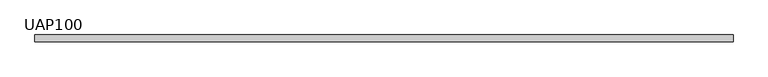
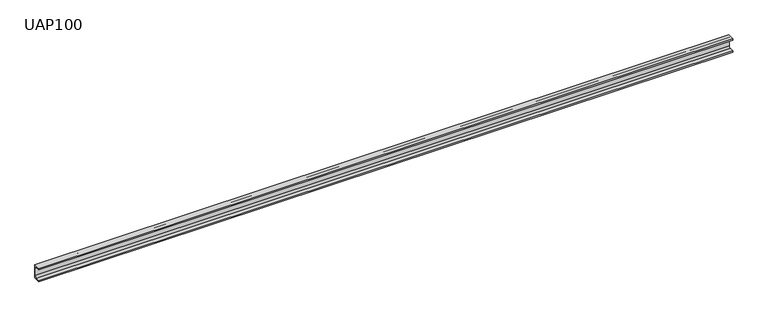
"""IFC4 building model written with IfcOpenShell, lengths in millimetres: beam geometry, U-Fers a ailes parallèles : UAP100."""

import ifcopenshell
import ifcopenshell.guid

model = None  # the IFC model being written
_history = None  # IfcOwnerHistory: only IFC2X3 demands one
_inside = {}  # id of a spatial element -> (the spatial element, [elements in it])
_under = {}  # id of a project, library or spatial element -> (it, [spatial elements below it])
_declared = {}  # id of a project -> (the project, [libraries it declares])
_typed = {}  # id of a type object -> (the type object, [elements of that type])
_made_of = {}  # id of a material, layer set ... -> (it, [elements and type objects made of it])


def new_model(schema):
    """Start an empty IFC model of exactly this schema.

    Asked for "IFC4X3", IfcOpenShell would pick the latest addendum, in which some entities
    have other attributes; the version numbers below select the first issue.
    IFC2X3 requires an IfcOwnerHistory on every rooted entity: one is made here for all.
    """
    global model, _history
    if schema == "IFC4X3":
        model = ifcopenshell.file(schema_version=(4, 3, 0, 0))
    else:
        model = ifcopenshell.file(schema=schema)
    _inside.clear()
    _under.clear()
    _declared.clear()
    _typed.clear()
    _made_of.clear()
    _history = None
    if model.schema == "IFC2X3":
        org = make("IfcOrganization", Name="unknown")
        user = make(
            "IfcPersonAndOrganization",
            ThePerson=make("IfcPerson", FamilyName="unknown"),
            TheOrganization=org,
        )
        app = make(
            "IfcApplication",
            ApplicationDeveloper=org,
            Version="unknown",
            ApplicationFullName="unknown",
            ApplicationIdentifier="unknown",
        )
        _history = make(
            "IfcOwnerHistory",
            OwningUser=user,
            OwningApplication=app,
            ChangeAction="ADDED",
            CreationDate=0,
        )
    return model


def make(cls, **values):
    """One entity of the class cls with the attributes given. An attribute that is None is left unset."""
    return model.create_entity(
        cls, **{name: value for name, value in values.items() if value is not None}
    )


def rooted(cls, **values):
    """An entity with a GlobalId (a new one), such as an element, a storey or a relation."""
    return make(cls, GlobalId=ifcopenshell.guid.new(), OwnerHistory=_history, **values)


def si_unit(unit_type, name, prefix=None):
    """IfcSIUnit, for example si_unit("LENGTHUNIT", "METRE", prefix="MILLI")."""
    return make("IfcSIUnit", UnitType=unit_type, Prefix=prefix, Name=name)


def assignment(units):
    """IfcUnitAssignment: the units of a project."""
    return None if units is None else make("IfcUnitAssignment", Units=units)


def point(xyz):
    """IfcCartesianPoint."""
    return None if xyz is None else make("IfcCartesianPoint", Coordinates=xyz)


def direction(xyz):
    """IfcDirection."""
    return None if xyz is None else make("IfcDirection", DirectionRatios=xyz)


def frame(location, z_axis=None, x_axis=None):
    """IfcAxis2Placement3D, a coordinate frame: its origin and axes. An axis left out is left unset."""
    return make(
        "IfcAxis2Placement3D",
        Location=point(location),
        Axis=direction(z_axis),
        RefDirection=direction(x_axis),
    )


def frame_2d(location, x_axis=None):
    """IfcAxis2Placement2D, a coordinate frame in the plane: its origin and x axis."""
    return make(
        "IfcAxis2Placement2D", Location=point(location), RefDirection=direction(x_axis)
    )


def origin():
    """The frame at (0, 0, 0) with its axes left unset."""
    return frame((0.0, 0.0, 0.0))


def place(relative_to, where):
    """IfcLocalPlacement: puts the frame where relative to a parent placement (None: the world)."""
    return make(
        "IfcLocalPlacement", PlacementRelTo=relative_to, RelativePlacement=where
    )


def context(
    kind, dimensions, precision=None, world=None, true_north=None, identifier=None
):
    """IfcGeometricRepresentationContext, for example the 3D "Model" context."""
    return make(
        "IfcGeometricRepresentationContext",
        ContextIdentifier=identifier,
        ContextType=kind,
        CoordinateSpaceDimension=dimensions,
        Precision=precision,
        WorldCoordinateSystem=world,
        TrueNorth=true_north,
    )


def project(units=None, contexts=None):
    """IfcProject with its units and contexts."""
    return rooted(
        "IfcProject",
        Name="project",
        RepresentationContexts=contexts,
        UnitsInContext=assignment(units),
    )


def spatial(cls, under=None, at=None, **own):
    """A site, building, storey or space (cls), placed at a placement, below another one or the project."""
    s = rooted(cls, ObjectPlacement=at, **own)
    if under is not None:
        _under.setdefault(under.id(), (under, []))[1].append(s)
    return s


def polyline(points):
    """IfcPolyline through the points."""
    return make("IfcPolyline", Points=[point(p) for p in points])


def circle_curve(where, radius):
    """IfcCircle in the frame where."""
    return make("IfcCircle", Position=where, Radius=radius)


def trimmed(basis, trim1, trim2, sense, master):
    """IfcTrimmedCurve: the piece of a basis curve between two trims."""
    return make(
        "IfcTrimmedCurve",
        BasisCurve=basis,
        Trim1=trim1,
        Trim2=trim2,
        SenseAgreement=sense,
        MasterRepresentation=master,
    )


def segment(curve, same_sense, transition):
    """IfcCompositeCurveSegment."""
    return make(
        "IfcCompositeCurveSegment",
        Transition=transition,
        SameSense=same_sense,
        ParentCurve=curve,
    )


def composite_curve(segments, self_intersect=None):
    """IfcCompositeCurve: segments joined end to end."""
    return make("IfcCompositeCurve", Segments=segments, SelfIntersect=self_intersect)


def outline(outer, holes=None, kind="AREA"):
    """IfcArbitraryClosedProfileDef: a profile drawn as a closed curve; with holes, ...WithVoids."""
    if holes is None:
        return make("IfcArbitraryClosedProfileDef", ProfileType=kind, OuterCurve=outer)
    return make(
        "IfcArbitraryProfileDefWithVoids",
        ProfileType=kind,
        OuterCurve=outer,
        InnerCurves=holes,
    )


def extrude(swept, where, along, depth):
    """IfcExtrudedAreaSolid: the profile swept, set in the frame where, extruded along a direction by depth."""
    return make(
        "IfcExtrudedAreaSolid",
        SweptArea=swept,
        Position=where,
        ExtrudedDirection=direction(along),
        Depth=depth,
    )


def shape(context_of_items, identifier, shape_type, items):
    """IfcShapeRepresentation: the items that make up one representation, for example the "Body"."""
    return make(
        "IfcShapeRepresentation",
        ContextOfItems=context_of_items,
        RepresentationIdentifier=identifier,
        RepresentationType=shape_type,
        Items=items,
    )


def source(mapping_origin, context_of_items, identifier, shape_type, items):
    """IfcRepresentationMap: a shape defined once, which mapped items show again and again."""
    return make(
        "IfcRepresentationMap",
        MappingOrigin=mapping_origin,
        MappedRepresentation=shape(context_of_items, identifier, shape_type, items),
    )


def transform(
    local_origin,
    x_axis=None,
    y_axis=None,
    z_axis=None,
    scale=None,
    scale2=None,
    scale3=None,
    uniform=True,
):
    """IfcCartesianTransformationOperator3D, or its non-uniform kind. x_axis, y_axis, z_axis: its Axis1, 2, 3."""
    if uniform:
        return make(
            "IfcCartesianTransformationOperator3D",
            Axis1=direction(x_axis),
            Axis2=direction(y_axis),
            LocalOrigin=point(local_origin),
            Scale=scale,
            Axis3=direction(z_axis),
        )
    return make(
        "IfcCartesianTransformationOperator3DnonUniform",
        Axis1=direction(x_axis),
        Axis2=direction(y_axis),
        LocalOrigin=point(local_origin),
        Scale=scale,
        Axis3=direction(z_axis),
        Scale2=scale2,
        Scale3=scale3,
    )


def mapped(mapping_source, mapping_target):
    """IfcMappedItem: shows the shape of a source again, moved by a transform."""
    return make(
        "IfcMappedItem", MappingSource=mapping_source, MappingTarget=mapping_target
    )


def made_of(thing, what):
    """Note that an element or type object is made of a material, layer set ...; save() writes the relation."""
    if what is not None:
        _made_of.setdefault(what.id(), (what, []))[1].append(thing)
    return thing


def element(
    cls,
    number,
    at=None,
    inside=None,
    cuts=None,
    type_object=None,
    material=None,
    context=None,
    identifier="Body",
    shape_type=None,
    held_by="IfcProductDefinitionShape",
    body=None,
    shapes=None,
    **own,
):
    """One element of the class cls, such as IfcWall. Its Tag is "e" and its number.

    at: its placement. inside: the storey or other place that contains it. cuts: it is an
    opening in that element (IfcRelVoidsElement). A single representation is given by context,
    identifier, shape_type and body (its items); several are given by shapes. held_by: the class
    of the entity that holds the representations. save() writes the other relations.
    """
    e = rooted(cls, Tag="e%d" % number, ObjectPlacement=at, **own)
    if body is not None:
        shapes = [shape(context, identifier, shape_type, body)]
    if shapes is not None:
        e.Representation = make(held_by, Representations=shapes)
    if inside is not None:
        _inside.setdefault(inside.id(), (inside, []))[1].append(e)
    if cuts is not None:
        rooted(
            "IfcRelVoidsElement", RelatingBuildingElement=cuts, RelatedOpeningElement=e
        )
    if type_object is not None:
        _typed.setdefault(type_object.id(), (type_object, []))[1].append(e)
    return made_of(e, material)


def aggregate(whole, parts):
    """IfcRelAggregates: a whole, such as a stair, and the parts it consists of."""
    return rooted("IfcRelAggregates", RelatingObject=whole, RelatedObjects=parts)


def save(model, path):
    """Write the relations noted so far, then the file.

    IfcRelAggregates (storeys below a building ...), IfcRelContainedInSpatialStructure (elements
    in a storey), IfcRelDefinesByType, IfcRelAssociatesMaterial and IfcRelDeclares: one each for
    every whole, place, type object, material and project.
    """
    for whole, parts in _under.values():
        aggregate(whole, parts)
    for where, things in _inside.values():
        rooted(
            "IfcRelContainedInSpatialStructure",
            RelatedElements=things,
            RelatingStructure=where,
        )
    for kind, things in _typed.values():
        rooted("IfcRelDefinesByType", RelatedObjects=things, RelatingType=kind)
    for what, things in _made_of.values():
        rooted("IfcRelAssociatesMaterial", RelatedObjects=things, RelatingMaterial=what)
    for by, libraries in _declared.values():
        rooted("IfcRelDeclares", RelatingContext=by, RelatedDefinitions=libraries)
    model.write(path)


def uap100_04143565(model_context):
    return source(origin(), model_context, "Body", "SweptSolid", [
        extrude(outline(composite_curve([segment(polyline([(17.0, 50.0), (17.0, -50.0), (-33.0, -50.0), (-33.0, -41.5), (-2.5, -41.5)]), True, "CONTINUOUS"), segment(trimmed(circle_curve(frame_2d((-2.5, -27.5)), 14.0), [point((-2.5, -41.5))], [point((11.5, -27.5))], True, "CARTESIAN"), True, "CONTINUOUS"), segment(polyline([(11.5, -27.5), (11.5, 27.5)]), True, "CONTINUOUS"), segment(trimmed(circle_curve(frame_2d((-2.5, 27.5)), 14.0), [point((11.5, 27.5))], [point((-2.5, 41.5))], True, "CARTESIAN"), True, "CONTINUOUS"), segment(polyline([(-2.5, 41.5), (-33.0, 41.5), (-33.0, 50.0), (17.0, 50.0)]), True, "CONTINUOUS")], self_intersect=False)), frame((-2499.5, 0.0, 0.0), z_axis=(1.0, 0.0, 0.0), x_axis=(0.0, 1.0, 0.0)), (0.0, 0.0, 1.0), 4999.0),
    ])


if __name__ == "__main__":
    model = new_model("IFC4")
    model_context = context("Model", 3, world=origin())
    ifc_project = project(units=[si_unit("LENGTHUNIT", "METRE", prefix="MILLI")], contexts=[model_context])
    site = spatial("IfcSite", under=ifc_project)
    building = spatial("IfcBuilding", under=site)
    placement = place(None, origin())
    uap100_shape = uap100_04143565(model_context)
    element("IfcBeam", 1, ObjectType="U-Fers a ailes parallèles : UAP100", at=placement, inside=building, context=model_context, shape_type="MappedRepresentation", body=[
        mapped(uap100_shape, transform((0.0, 0.0, 0.0), x_axis=(1.0, 0.0, 0.0), y_axis=(0.0, 1.0, 0.0), z_axis=(0.0, 0.0, 1.0))),
    ])
    save(model, "model.ifc")
